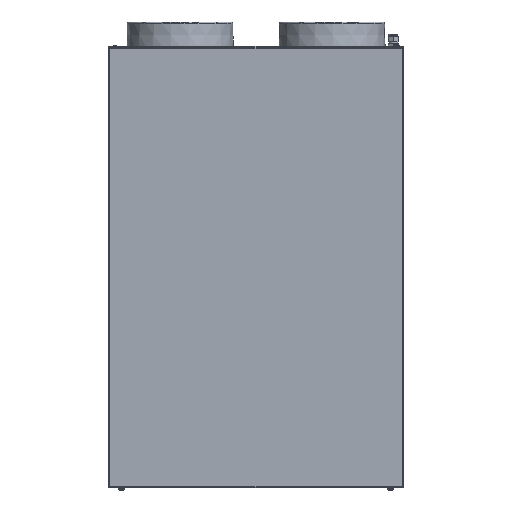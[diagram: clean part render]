
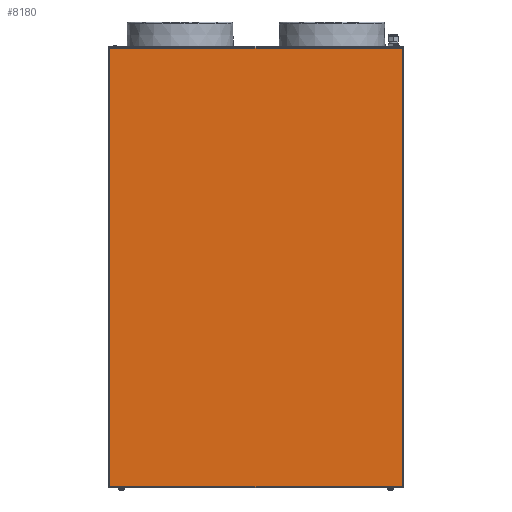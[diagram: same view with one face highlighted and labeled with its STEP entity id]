
A CAD part, front view. The second image highlights one B-rep face of the part: STEP entity #8180.
In plain terms, the highlighted planar face has unit normal (0, -1, 0).
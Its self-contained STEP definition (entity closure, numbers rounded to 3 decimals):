
#207=LINE('',#12942,#664);
#209=LINE('',#12952,#666);
#214=LINE('',#12969,#671);
#216=LINE('',#12972,#673);
#664=VECTOR('',#10255,591.6);
#666=VECTOR('',#10267,886.6);
#671=VECTOR('',#10286,886.6);
#673=VECTOR('',#10290,591.6);
#1197=PLANE('',#8925);
#1880=FACE_OUTER_BOUND('',#2562,.T.);
#2562=EDGE_LOOP('',(#5874,#5875,#5876,#5877));
#3966=VERTEX_POINT('',#12928);
#3971=VERTEX_POINT('',#12938);
#3972=VERTEX_POINT('',#12945);
#3979=VERTEX_POINT('',#12964);
#4736=EDGE_CURVE('',#3966,#3971,#207,.T.);
#4741=EDGE_CURVE('',#3972,#3966,#209,.T.);
#4750=EDGE_CURVE('',#3971,#3979,#214,.T.);
#4752=EDGE_CURVE('',#3979,#3972,#216,.T.);
#5874=ORIENTED_EDGE('',*,*,#4736,.F.);
#5875=ORIENTED_EDGE('',*,*,#4741,.F.);
#5876=ORIENTED_EDGE('',*,*,#4752,.F.);
#5877=ORIENTED_EDGE('',*,*,#4750,.F.);
#8180=ADVANCED_FACE('',(#1880),#1197,.F.);
#8925=AXIS2_PLACEMENT_3D('',#12999,#10319,#10320);
#10255=DIRECTION('',(-1.,0.,0.));
#10267=DIRECTION('',(0.,0.,-1.));
#10286=DIRECTION('',(0.,0.,1.));
#10290=DIRECTION('',(1.,0.,0.));
#10319=DIRECTION('center_axis',(0.,1.,0.));
#10320=DIRECTION('ref_axis',(-1.,0.,0.));
#12928=CARTESIAN_POINT('',(561.571,191.339,245.477));
#12938=CARTESIAN_POINT('',(-30.029,191.339,245.477));
#12942=CARTESIAN_POINT('',(-31.729,191.339,245.477));
#12945=CARTESIAN_POINT('',(561.571,191.339,1132.077));
#12952=CARTESIAN_POINT('',(561.571,191.339,243.777));
#12964=CARTESIAN_POINT('',(-30.029,191.339,1132.077));
#12969=CARTESIAN_POINT('',(-30.029,191.339,243.777));
#12972=CARTESIAN_POINT('',(-31.729,191.339,1132.077));
#12999=CARTESIAN_POINT('Origin',(-31.729,191.339,243.777));
